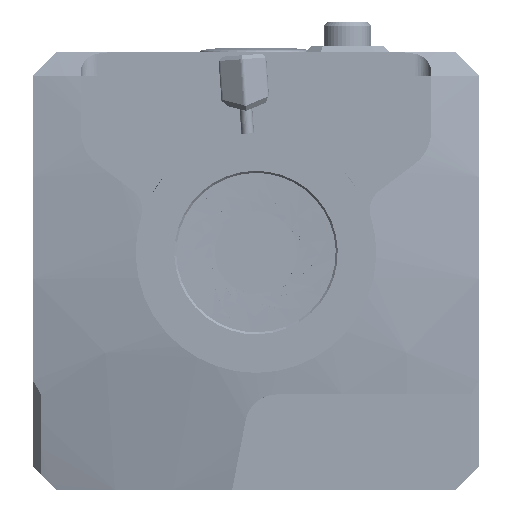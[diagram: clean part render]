
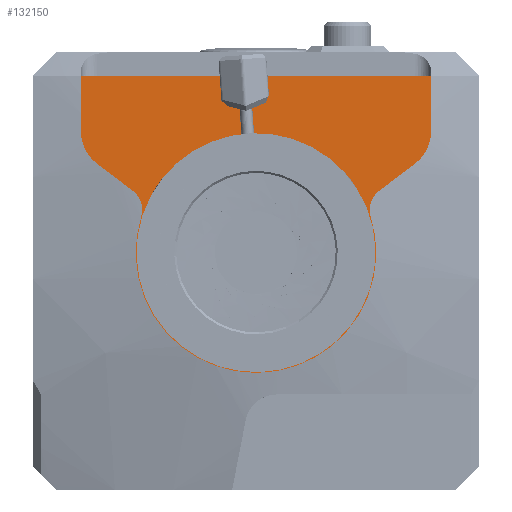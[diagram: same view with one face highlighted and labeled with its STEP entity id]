
A CAD part, left-side view. The second image highlights one B-rep face of the part: STEP entity #132150.
In plain terms, the highlighted planar face has unit normal (-1, 0, 0).
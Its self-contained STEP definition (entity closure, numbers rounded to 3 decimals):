
#370 = DIRECTION ( 'NONE',  ( -1., 0., 0. ) ) ;
#6110 = DIRECTION ( 'NONE',  ( 0., 1., 0. ) ) ;
#8411 = DIRECTION ( 'NONE',  ( 0., -1., 0. ) ) ;
#9471 = DIRECTION ( 'NONE',  ( 0., 0., 1. ) ) ;
#15214 = LINE ( 'NONE', #448395, #69805 ) ;
#18080 = CIRCLE ( 'NONE', #211833, 5. ) ;
#25765 = DIRECTION ( 'NONE',  ( 1., 0., 0. ) ) ;
#26497 = FACE_OUTER_BOUND ( 'NONE', #375683, .T. ) ;
#35074 = DIRECTION ( 'NONE',  ( -1., 0., 0. ) ) ;
#36606 = EDGE_CURVE ( 'NONE', #184868, #503585, #15214, .T. ) ;
#42141 = VERTEX_POINT ( 'NONE', #455916 ) ;
#45507 = VERTEX_POINT ( 'NONE', #145976 ) ;
#63377 = CARTESIAN_POINT ( 'NONE',  ( 6., 6.025, 52. ) ) ;
#64853 = VERTEX_POINT ( 'NONE', #386665 ) ;
#68727 = CARTESIAN_POINT ( 'NONE',  ( 6., 43.47, 37.557 ) ) ;
#69805 = VECTOR ( 'NONE', #9471, 1000. ) ;
#74812 = EDGE_CURVE ( 'NONE', #347861, #534142, #155146, .T. ) ;
#77089 = DIRECTION ( 'NONE',  ( 1., 0., 0. ) ) ;
#82376 = EDGE_CURVE ( 'NONE', #426217, #172713, #257230, .T. ) ;
#87147 = DIRECTION ( 'NONE',  ( -1., 0., 0. ) ) ;
#102340 = CARTESIAN_POINT ( 'NONE',  ( 6., 12.53, 37.557 ) ) ;
#106564 = DIRECTION ( 'NONE',  ( 0., -0.796, -0.605 ) ) ;
#106647 = EDGE_CURVE ( 'NONE', #64853, #45507, #491833, .T. ) ;
#107244 = CARTESIAN_POINT ( 'NONE',  ( 6., 17., 29.8 ) ) ;
#111130 = AXIS2_PLACEMENT_3D ( 'NONE', #530007, #265502, #166965 ) ;
#128638 = EDGE_CURVE ( 'NONE', #42141, #347861, #242988, .T. ) ;
#128975 = ORIENTED_EDGE ( 'NONE', *, *, #326398, .T. ) ;
#129989 = EDGE_CURVE ( 'NONE', #45507, #184868, #18080, .T. ) ;
#130929 = CARTESIAN_POINT ( 'NONE',  ( 6., 10.715, 35.169 ) ) ;
#132150 = ADVANCED_FACE ( 'NONE', ( #26497, #343058 ), #436000, .T. ) ;
#145976 = CARTESIAN_POINT ( 'NONE',  ( 6., 8., 41. ) ) ;
#149733 = ORIENTED_EDGE ( 'NONE', *, *, #397823, .T. ) ;
#153825 = ORIENTED_EDGE ( 'NONE', *, *, #494943, .T. ) ;
#155146 = CIRCLE ( 'NONE', #303558, 3. ) ;
#166965 = DIRECTION ( 'NONE',  ( 0., -1., 0. ) ) ;
#172713 = VERTEX_POINT ( 'NONE', #497166 ) ;
#177729 = CARTESIAN_POINT ( 'NONE',  ( 6., 44.975, 44.981 ) ) ;
#181097 = VECTOR ( 'NONE', #456846, 1000. ) ;
#184868 = VERTEX_POINT ( 'NONE', #461573 ) ;
#199252 = EDGE_CURVE ( 'NONE', #493039, #64853, #278132, .T. ) ;
#201737 = CARTESIAN_POINT ( 'NONE',  ( 6., 49.975, 52. ) ) ;
#203543 = VECTOR ( 'NONE', #106564, 1000. ) ;
#203850 = CIRCLE ( 'NONE', #546928, 5. ) ;
#211833 = AXIS2_PLACEMENT_3D ( 'NONE', #534566, #87147, #8411 ) ;
#212318 = DIRECTION ( 'NONE',  ( 0., -1., 0. ) ) ;
#213509 = DIRECTION ( 'NONE',  ( 0., -1., 0. ) ) ;
#213632 = CARTESIAN_POINT ( 'NONE',  ( 6., 49.975, 44.981 ) ) ;
#214414 = ORIENTED_EDGE ( 'NONE', *, *, #74812, .T. ) ;
#226631 = DIRECTION ( 'NONE',  ( 0., 1., 0. ) ) ;
#240818 = CIRCLE ( 'NONE', #111130, 15.1 ) ;
#242988 = LINE ( 'NONE', #68727, #203543 ) ;
#246587 = CARTESIAN_POINT ( 'NONE',  ( 6., 45.285, 35.169 ) ) ;
#249436 = DIRECTION ( 'NONE',  ( 0., -1., 0. ) ) ;
#251081 = ORIENTED_EDGE ( 'NONE', *, *, #129989, .T. ) ;
#255671 = ORIENTED_EDGE ( 'NONE', *, *, #82376, .T. ) ;
#257230 = LINE ( 'NONE', #213632, #306864 ) ;
#258744 = CARTESIAN_POINT ( 'NONE',  ( 6., 45.285, 35.169 ) ) ;
#261330 = CIRCLE ( 'NONE', #382076, 11. ) ;
#265502 = DIRECTION ( 'NONE',  ( -1., 0., 0. ) ) ;
#278132 = CIRCLE ( 'NONE', #500945, 3. ) ;
#303558 = AXIS2_PLACEMENT_3D ( 'NONE', #246587, #25765, #249436 ) ;
#306864 = VECTOR ( 'NONE', #390877, 1000. ) ;
#322039 = CARTESIAN_POINT ( 'NONE',  ( 6., 49.975, 52. ) ) ;
#326398 = EDGE_CURVE ( 'NONE', #502415, #502415, #261330, .T. ) ;
#342454 = AXIS2_PLACEMENT_3D ( 'NONE', #258744, #35074, #212318 ) ;
#343058 = FACE_BOUND ( 'NONE', #489496, .T. ) ;
#347861 = VERTEX_POINT ( 'NONE', #366775 ) ;
#366775 = CARTESIAN_POINT ( 'NONE',  ( 6., 43.47, 37.557 ) ) ;
#375683 = EDGE_LOOP ( 'NONE', ( #214414, #149733, #405613, #496519, #251081, #461705, #153825, #255671, #395203, #469329 ) ) ;
#382076 = AXIS2_PLACEMENT_3D ( 'NONE', #393612, #77089, #213509 ) ;
#386665 = CARTESIAN_POINT ( 'NONE',  ( 6., 12.53, 37.557 ) ) ;
#390877 = DIRECTION ( 'NONE',  ( 0., 0., -1. ) ) ;
#393612 = CARTESIAN_POINT ( 'NONE',  ( 6., 28., 29.8 ) ) ;
#395203 = ORIENTED_EDGE ( 'NONE', *, *, #476771, .T. ) ;
#397823 = EDGE_CURVE ( 'NONE', #534142, #493039, #240818, .T. ) ;
#398138 = DIRECTION ( 'NONE',  ( 1., 0., 0. ) ) ;
#401922 = CARTESIAN_POINT ( 'NONE',  ( 6., 42.42, 34.279 ) ) ;
#405613 = ORIENTED_EDGE ( 'NONE', *, *, #199252, .T. ) ;
#426217 = VERTEX_POINT ( 'NONE', #201737 ) ;
#436000 = PLANE ( 'NONE',  #342454 ) ;
#448395 = CARTESIAN_POINT ( 'NONE',  ( 6., 6.025, 52. ) ) ;
#455916 = CARTESIAN_POINT ( 'NONE',  ( 6., 48., 41. ) ) ;
#456846 = DIRECTION ( 'NONE',  ( 0., -0.796, 0.605 ) ) ;
#461573 = CARTESIAN_POINT ( 'NONE',  ( 6., 6.025, 44.981 ) ) ;
#461705 = ORIENTED_EDGE ( 'NONE', *, *, #36606, .T. ) ;
#466818 = VECTOR ( 'NONE', #545898, 1000. ) ;
#469329 = ORIENTED_EDGE ( 'NONE', *, *, #128638, .T. ) ;
#476771 = EDGE_CURVE ( 'NONE', #172713, #42141, #203850, .T. ) ;
#489496 = EDGE_LOOP ( 'NONE', ( #128975 ) ) ;
#491833 = LINE ( 'NONE', #102340, #181097 ) ;
#493039 = VERTEX_POINT ( 'NONE', #564161 ) ;
#494943 = EDGE_CURVE ( 'NONE', #503585, #426217, #502238, .T. ) ;
#496519 = ORIENTED_EDGE ( 'NONE', *, *, #106647, .T. ) ;
#497166 = CARTESIAN_POINT ( 'NONE',  ( 6., 49.975, 44.981 ) ) ;
#500945 = AXIS2_PLACEMENT_3D ( 'NONE', #130929, #398138, #226631 ) ;
#502238 = LINE ( 'NONE', #322039, #466818 ) ;
#502415 = VERTEX_POINT ( 'NONE', #107244 ) ;
#503585 = VERTEX_POINT ( 'NONE', #63377 ) ;
#530007 = CARTESIAN_POINT ( 'NONE',  ( 6., 28., 29.8 ) ) ;
#534142 = VERTEX_POINT ( 'NONE', #401922 ) ;
#534566 = CARTESIAN_POINT ( 'NONE',  ( 6., 11.025, 44.981 ) ) ;
#545898 = DIRECTION ( 'NONE',  ( 0., 1., 0. ) ) ;
#546928 = AXIS2_PLACEMENT_3D ( 'NONE', #177729, #370, #6110 ) ;
#564161 = CARTESIAN_POINT ( 'NONE',  ( 6., 13.58, 34.279 ) ) ;
